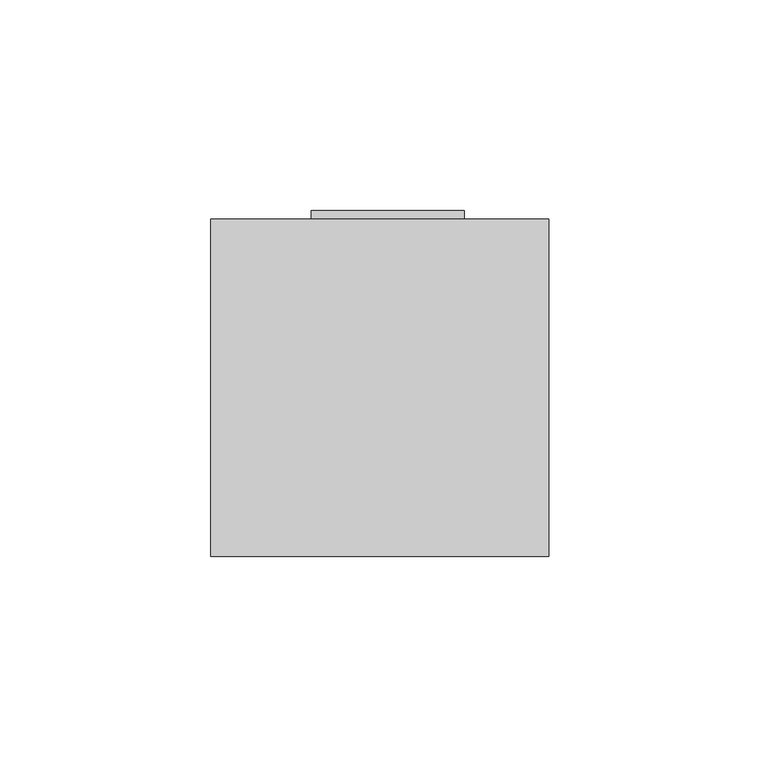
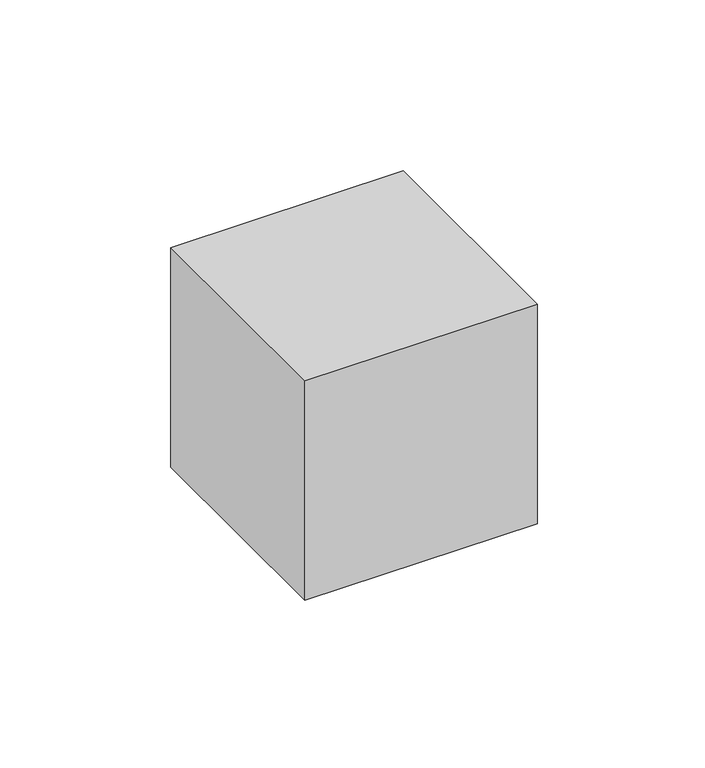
"""IFC4 building model written with IfcOpenShell, lengths in millimetres: proxy geometry, Schwachstromschalter : Schwachstromschalter."""

from ifc_helpers import new_model, si_unit, frame, origin, place, context, project, spatial, polyline, outline, extrude, source, transform, mapped, element, save


def electrical_equipment_aeb4d91f(model_context):
    return source(origin(), model_context, "Body", "SweptSolid", [
        extrude(outline(polyline([(20.0, 42.0), (20.0, 40.0), (-16.2464232, 40.0), (-16.2464232, 42.0), (20.0, 42.0)])), frame((0.0, 0.0, 819.0344324), z_axis=(0.0, 0.0, 1.0), x_axis=(1.0, 0.0, 0.0)), (0.0, 0.0, 1.0), 44.6202224),
        extrude(outline(polyline([(40.0, 40.0), (40.0, -40.0), (-40.0, -40.0), (-40.0, 40.0), (40.0, 40.0)])), frame((0.0, 0.0, 800.0), z_axis=(0.0, 0.0, 1.0), x_axis=(1.0, 0.0, 0.0)), (0.0, 0.0, 1.0), 80.0),
    ])


if __name__ == "__main__":
    model = new_model("IFC4")
    model_context = context("Model", 3, world=origin())
    ifc_project = project(units=[si_unit("LENGTHUNIT", "METRE", prefix="MILLI")], contexts=[model_context])
    site = spatial("IfcSite", under=ifc_project)
    building = spatial("IfcBuilding", under=site)
    placement = place(None, origin())
    electrical_equipment_shape = electrical_equipment_aeb4d91f(model_context)
    element("IfcBuildingElementProxy", 1, Name="Schwachstromschalter : Schwachstromschalter", ObjectType="Schwachstromschalter : Schwachstromschalter", at=placement, inside=building, context=model_context, shape_type="MappedRepresentation", body=[
        mapped(electrical_equipment_shape, transform((0.0, 0.0, 0.0), x_axis=(1.0, 0.0, 0.0), y_axis=(0.0, 1.0, 0.0), z_axis=(0.0, 0.0, 1.0))),
    ])
    save(model, "model.ifc")
